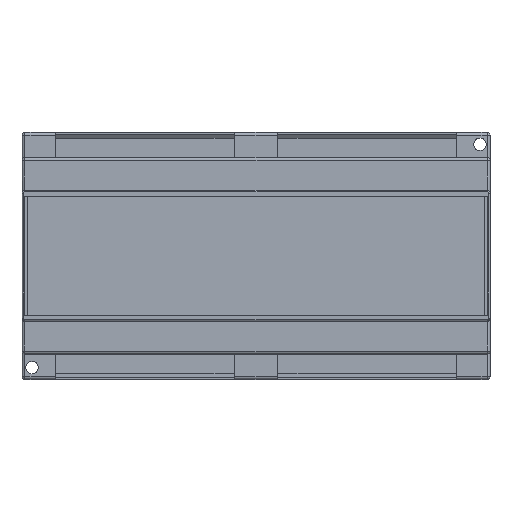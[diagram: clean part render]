
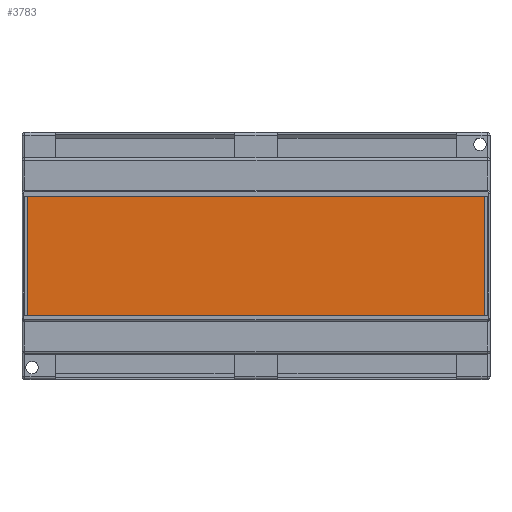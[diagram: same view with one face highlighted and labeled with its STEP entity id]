
A CAD part, top view. The second image highlights one B-rep face of the part: STEP entity #3783.
In plain terms, the highlighted planar face has unit normal (0, 0, 1).
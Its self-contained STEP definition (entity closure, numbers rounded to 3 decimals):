
#102 = VERTEX_POINT ( 'NONE', #1870 ) ;
#228 = VERTEX_POINT ( 'NONE', #1794 ) ;
#305 = VECTOR ( 'NONE', #4291, 1000. ) ;
#341 = LINE ( 'NONE', #1648, #658 ) ;
#343 = CARTESIAN_POINT ( 'NONE',  ( -78.5, 20.5, 65.8 ) ) ;
#658 = VECTOR ( 'NONE', #5082, 1000. ) ;
#660 = LINE ( 'NONE', #834, #2050 ) ;
#834 = CARTESIAN_POINT ( 'NONE',  ( 78.5, 20.5, 65.8 ) ) ;
#1118 = PLANE ( 'NONE',  #2371 ) ;
#1221 = VERTEX_POINT ( 'NONE', #3253 ) ;
#1420 = EDGE_CURVE ( 'NONE', #102, #1221, #660, .T. ) ;
#1648 = CARTESIAN_POINT ( 'NONE',  ( 78.5, -20.5, 65.8 ) ) ;
#1656 = EDGE_CURVE ( 'NONE', #5952, #228, #5245, .T. ) ;
#1679 = DIRECTION ( 'NONE',  ( 0., 0., -1. ) ) ;
#1794 = CARTESIAN_POINT ( 'NONE',  ( -78.5, -20.5, 65.8 ) ) ;
#1796 = EDGE_LOOP ( 'NONE', ( #4088, #4650, #3304, #3823 ) ) ;
#1870 = CARTESIAN_POINT ( 'NONE',  ( 78.5, -20.5, 65.8 ) ) ;
#2050 = VECTOR ( 'NONE', #3900, 1000. ) ;
#2371 = AXIS2_PLACEMENT_3D ( 'NONE', #5717, #1679, #5193 ) ;
#2932 = EDGE_CURVE ( 'NONE', #1221, #5952, #4096, .T. ) ;
#2975 = CARTESIAN_POINT ( 'NONE',  ( 78.5, 20.5, 65.8 ) ) ;
#3253 = CARTESIAN_POINT ( 'NONE',  ( 78.5, 20.5, 65.8 ) ) ;
#3304 = ORIENTED_EDGE ( 'NONE', *, *, #1656, .T. ) ;
#3783 = ADVANCED_FACE ( 'NONE', ( #4494 ), #1118, .F. ) ;
#3823 = ORIENTED_EDGE ( 'NONE', *, *, #5577, .T. ) ;
#3900 = DIRECTION ( 'NONE',  ( 0., 1., 0. ) ) ;
#4088 = ORIENTED_EDGE ( 'NONE', *, *, #1420, .T. ) ;
#4096 = LINE ( 'NONE', #2975, #305 ) ;
#4291 = DIRECTION ( 'NONE',  ( -1., 0., 0. ) ) ;
#4494 = FACE_OUTER_BOUND ( 'NONE', #1796, .T. ) ;
#4650 = ORIENTED_EDGE ( 'NONE', *, *, #2932, .T. ) ;
#5082 = DIRECTION ( 'NONE',  ( 1., 0., 0. ) ) ;
#5093 = CARTESIAN_POINT ( 'NONE',  ( -78.5, 20.5, 65.8 ) ) ;
#5193 = DIRECTION ( 'NONE',  ( -1., 0., 0. ) ) ;
#5245 = LINE ( 'NONE', #5093, #5312 ) ;
#5312 = VECTOR ( 'NONE', #5683, 1000. ) ;
#5577 = EDGE_CURVE ( 'NONE', #228, #102, #341, .T. ) ;
#5683 = DIRECTION ( 'NONE',  ( 0., -1., 0. ) ) ;
#5717 = CARTESIAN_POINT ( 'NONE',  ( 78.5, -20.5, 65.8 ) ) ;
#5952 = VERTEX_POINT ( 'NONE', #343 ) ;
